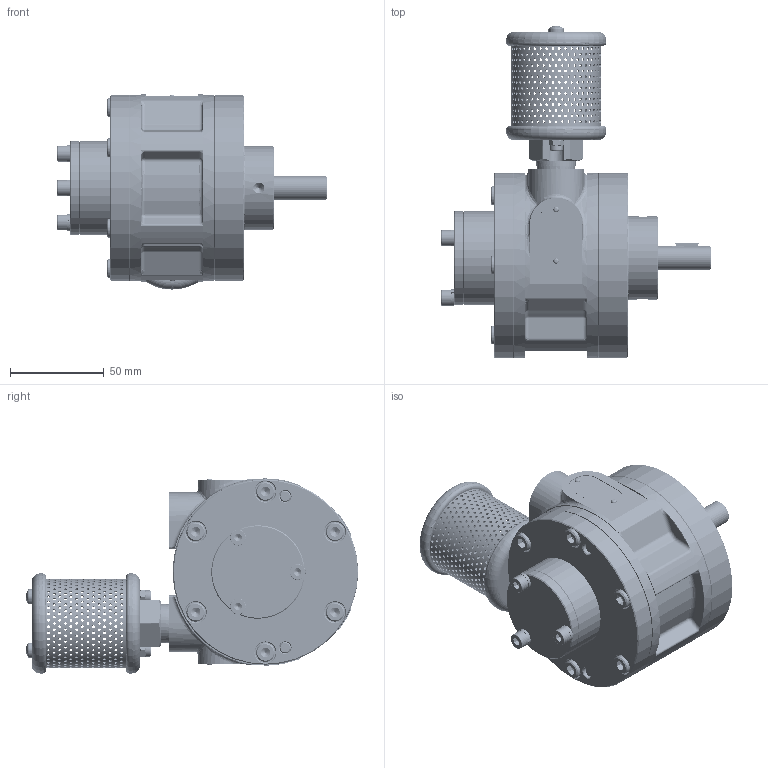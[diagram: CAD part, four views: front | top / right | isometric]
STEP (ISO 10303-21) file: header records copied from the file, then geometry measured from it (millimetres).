
FILE_DESCRIPTION (( 'STEP AP214' ), '1' );
FILE_NAME ('4VML-SGI (22-04-26).STEP', '2026-04-22T10:14:21', ( '' ), ( '' ), 'SwSTEP 2.0', 'SolidWorks 2017', '' );
FILE_SCHEMA (( 'AUTOMOTIVE_DESIGN' ));
Length unit declared in the file: millimetre
Products named in the file (2): 4VML-SGI (22-04-26)
Bounding box: 144.05 x 177.42 x 104.25 mm (x, y, z)
Volume: 330964.1 mm3; surface area: 158264.8 mm2
Topology: 49 solids, 49 shells, 3499 faces, 9594 edges, 6169 vertices
Faces by surface type: cylinder 2123, plane 605, cone 545, torus 155, bspline 46, sphere 25
Entity records: 167985 total; most frequent: CARTESIAN_POINT 70062, ORIENTED_EDGE 19028, DIRECTION 15168, EDGE_CURVE 9514, VERTEX_POINT 6167, AXIS2_PLACEMENT_3D 5856, EDGE_LOOP 5143, B_SPLINE_CURVE_WITH_KNOTS 3636
